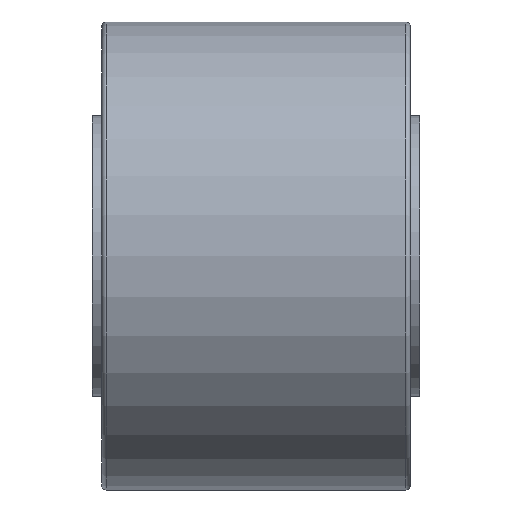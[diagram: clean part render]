
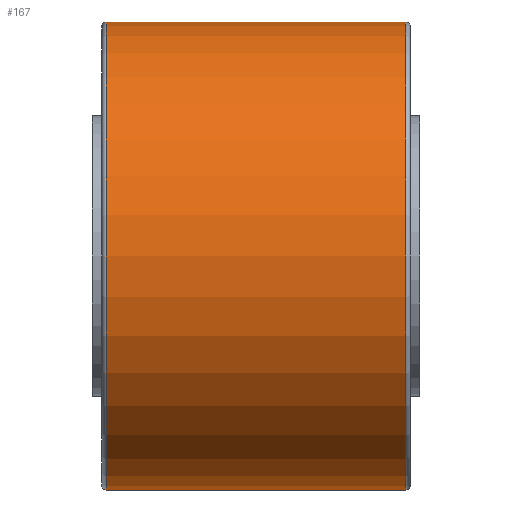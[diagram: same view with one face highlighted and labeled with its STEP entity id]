
A CAD part, front view. The second image highlights one B-rep face of the part: STEP entity #167.
In plain terms, the highlighted cylindrical face has radius 50 mm (diameter 100 mm), a partial arc.
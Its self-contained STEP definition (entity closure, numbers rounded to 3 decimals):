
#167 = ADVANCED_FACE ( 'NONE', ( #648 ), #649, .T. ) ;
#196 = EDGE_CURVE ( 'NONE', #1916, #1920, #710, .T. ) ;
#199 = ORIENTED_EDGE ( 'NONE', *, *, #196, .F. ) ;
#204 = EDGE_CURVE ( 'NONE', #1931, #1909, #696, .T. ) ;
#365 = ORIENTED_EDGE ( 'NONE', *, *, #366, .T. ) ;
#366 = EDGE_CURVE ( 'NONE', #1916, #1931, #1025, .T. ) ;
#375 = ORIENTED_EDGE ( 'NONE', *, *, #377, .T. ) ;
#377 = EDGE_CURVE ( 'NONE', #1909, #1920, #1008, .T. ) ;
#378 = ORIENTED_EDGE ( 'NONE', *, *, #204, .T. ) ;
#633 = CARTESIAN_POINT ( 'NONE',  ( -41.122, 0., 0. ) ) ;
#639 = DIRECTION ( 'NONE',  ( -1., 0., 0. ) ) ;
#644 = AXIS2_PLACEMENT_3D ( 'NONE', #633, #639, #692 ) ;
#648 = FACE_OUTER_BOUND ( 'NONE', #1968, .T. ) ;
#649 = CYLINDRICAL_SURFACE ( 'NONE', #644, 50. ) ;
#692 = DIRECTION ( 'NONE',  ( 0., 0., 1. ) ) ;
#693 = DIRECTION ( 'NONE',  ( -1., 0., 0. ) ) ;
#694 = VECTOR ( 'NONE', #693, 1000. ) ;
#695 = CARTESIAN_POINT ( 'NONE',  ( -41.122, 0., 50. ) ) ;
#696 = LINE ( 'NONE', #695, #694 ) ;
#702 = DIRECTION ( 'NONE',  ( -1., 0., 0. ) ) ;
#703 = VECTOR ( 'NONE', #702, 1000. ) ;
#710 = LINE ( 'NONE', #714, #703 ) ;
#714 = CARTESIAN_POINT ( 'NONE',  ( -41.122, 0., -50. ) ) ;
#981 = AXIS2_PLACEMENT_3D ( 'NONE', #1024, #1023, #1022 ) ;
#1007 = CARTESIAN_POINT ( 'NONE',  ( -32., 0., 0. ) ) ;
#1008 = CIRCLE ( 'NONE', #1010, 50. ) ;
#1010 = AXIS2_PLACEMENT_3D ( 'NONE', #1007, #1064, #1063 ) ;
#1022 = DIRECTION ( 'NONE',  ( 0., 0., 1. ) ) ;
#1023 = DIRECTION ( 'NONE',  ( -1., 0., 0. ) ) ;
#1024 = CARTESIAN_POINT ( 'NONE',  ( 32., 0., 0. ) ) ;
#1025 = CIRCLE ( 'NONE', #981, 50. ) ;
#1063 = DIRECTION ( 'NONE',  ( 0., 0., -1. ) ) ;
#1064 = DIRECTION ( 'NONE',  ( 1., 0., 0. ) ) ;
#1355 = CARTESIAN_POINT ( 'NONE',  ( -32., 0., 50. ) ) ;
#1393 = CARTESIAN_POINT ( 'NONE',  ( -32., 0., -50. ) ) ;
#1399 = CARTESIAN_POINT ( 'NONE',  ( 32., 0., -50. ) ) ;
#1434 = CARTESIAN_POINT ( 'NONE',  ( 32., 0., 50. ) ) ;
#1909 = VERTEX_POINT ( 'NONE', #1355 ) ;
#1916 = VERTEX_POINT ( 'NONE', #1399 ) ;
#1920 = VERTEX_POINT ( 'NONE', #1393 ) ;
#1931 = VERTEX_POINT ( 'NONE', #1434 ) ;
#1968 = EDGE_LOOP ( 'NONE', ( #199, #365, #378, #375 ) ) ;
